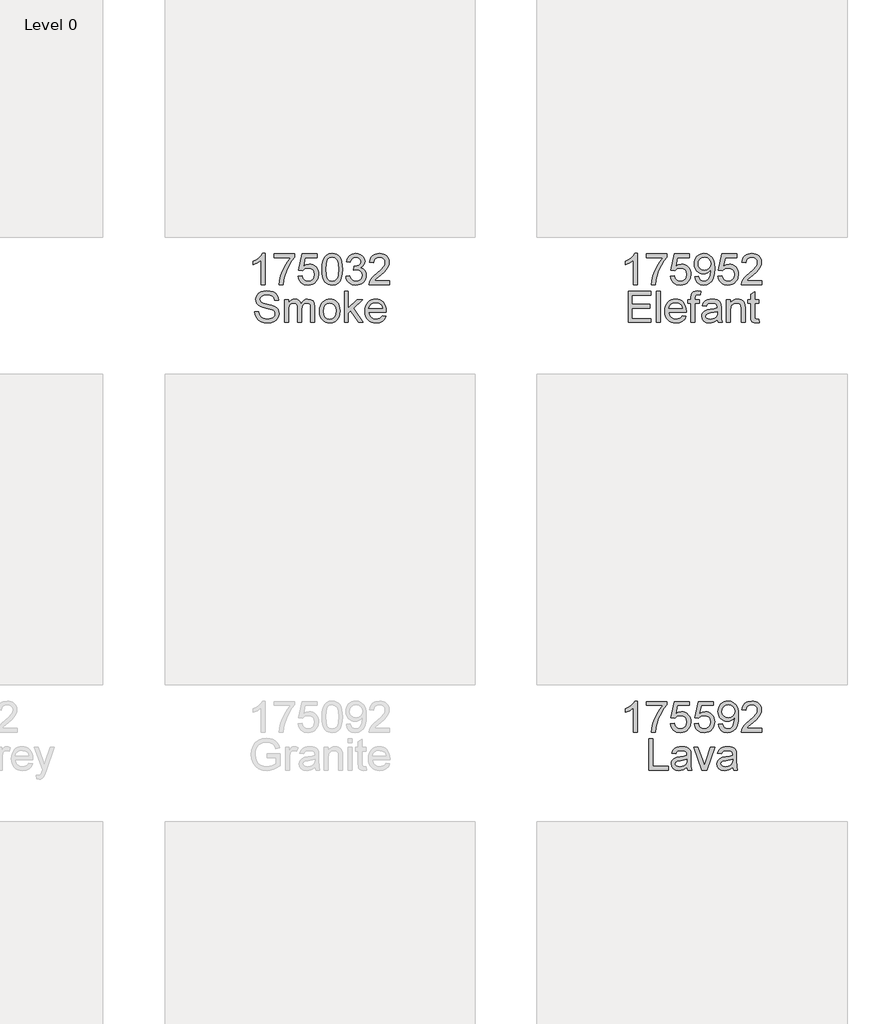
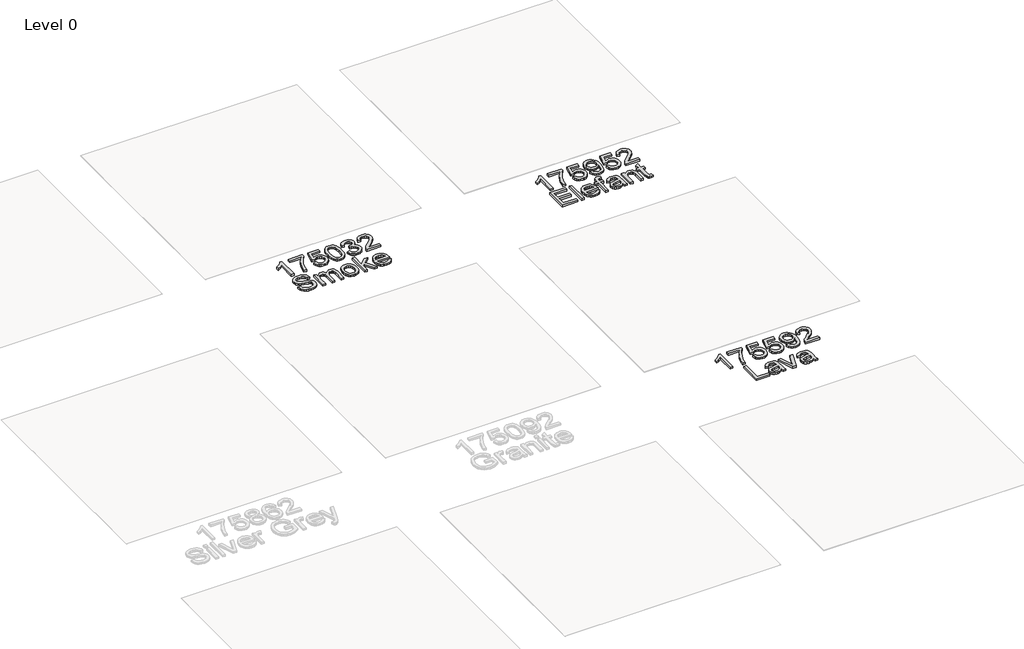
# One storey, part 4 of 5: 3 proxies.
"""IFC4 building model written with IfcOpenShell, lengths in millimetres."""

from ifc_helpers import new_model, si_unit, origin, origin_with_axes, place, context, project, spatial, polyline, outline, extrude, element, save

model = new_model("IFC4")

# Units and contexts
model_context = context("Model", 3, world=origin())
ifc_project = project(units=[si_unit("LENGTHUNIT", "METRE", prefix="MILLI")], contexts=[model_context])

# Site, building, storey
site = spatial("IfcSite", under=ifc_project)
building = spatial("IfcBuilding", under=site)
storey = spatial("IfcBuildingStorey", under=building, Name="Level 0", Elevation=0.0)

# Proxies
placement = place(None, origin())
element("IfcBuildingElementProxy", 1, Name="Floor Name", ObjectType="Floor Name", at=placement, inside=storey, context=model_context, shape_type="SweptSolid", body=[
    extrude(outline(polyline([(24290.377598, -2548.7362914), (24252.7064817, -2548.7362914), (24252.7064817, -2313.8804257), (24217.0219282, -2339.3010716), (24177.3642491, -2358.3205707), (24177.3642491, -2322.7095936), (24206.9511586, -2306.6147563), (24232.5833366, -2287.4664984), (24252.7892552, -2267.10423), (24266.0973864, -2247.367361), (24290.377598, -2247.367361), (24290.377598, -2548.7362914)])), origin_with_axes(), (0.0, 0.0, 1.0), 25.0),
    extrude(outline(polyline([(24379.8464993, -2289.7473668), (24379.8464993, -2252.0762505), (24577.6198599, -2252.0762505), (24577.6198599, -2282.5368797), (24549.430902, -2318.2122362), (24521.5178556, -2363.5812832), (24496.8973531, -2414.5053484), (24478.5860268, -2466.8457593), (24469.6097061, -2506.0067977), (24464.606511, -2548.7362914), (24426.9353947, -2548.7362914), (24431.0096878, -2509.9063468), (24441.9081919, -2463.7555505), (24459.3366014, -2414.8364422), (24483.0006107, -2367.7015616), (24510.6285486, -2325.0916295), (24539.9487436, -2289.7473668), (24379.8464993, -2289.7473668)])), origin_with_axes(), (0.0, 0.0, 1.0), 25.0),
    extrude(outline(polyline([(24610.5820866, -2468.6851693), (24648.253203, -2463.9762797), (24655.1693845, -2486.5918254), (24667.2359139, -2502.7878302), (24684.397609, -2512.527506), (24706.5992874, -2515.7740646), (24733.6018258, -2511.2583132), (24753.8353356, -2497.7110587), (24766.4720821, -2476.6957997), (24770.6843309, -2449.7760347), (24766.7387965, -2424.4289652), (24754.9021934, -2405.0415841), (24735.0825509, -2392.7359314), (24707.1878986, -2388.6340471), (24688.9133605, -2390.271122), (24674.1153072, -2395.1823466), (24652.9620925, -2412.1784948), (24615.2909762, -2407.4696053), (24648.253203, -2252.0762505), (24794.2287786, -2252.0762505), (24794.2287786, -2289.7473668), (24678.7138322, -2289.7473668), (24662.6006008, -2372.7415449), (24689.5111687, -2356.4075843), (24717.7093236, -2350.9629308), (24736.0551389, -2352.6505895), (24752.9064335, -2357.7135654), (24768.2632076, -2366.1518587), (24782.125461, -2377.9654693), (24793.60108, -2392.4324287), (24801.7979507, -2408.8307687), (24806.7160731, -2427.1604891), (24808.3554473, -2447.4215899), (24802.4509412, -2485.0927063), (24795.0703087, -2501.8865193), (24784.7374232, -2517.319169), (24769.0840443, -2533.1242992), (24750.8187032, -2544.413678), (24729.9414, -2551.1873052), (24706.4521346, -2553.445181), (24669.4524029, -2547.6418425), (24653.7737321, -2540.3876694), (24639.9758581, -2530.2318271), (24628.4956405, -2517.6801532), (24619.7699395, -2503.2384857), (24610.5820866, -2468.6851693)])), origin_with_axes(), (0.0, 0.0, 1.0), 25.0),
    extrude(outline(polyline([(24841.317674, -2400.4798474), (24844.085986, -2352.2413207), (24852.3909221, -2313.7700611), (24866.1497087, -2284.4774572), (24885.2795724, -2263.774898), (24909.9184691, -2251.4692452), (24940.2043543, -2247.367361), (24963.4177082, -2249.7953821), (24984.2030409, -2257.0794456), (25001.5854652, -2268.9344429), (25014.5900938, -2285.0752655), (25024.412543, -2305.3639575), (25032.2484295, -2329.6625633), (25037.3803834, -2360.5186656), (25039.0910346, -2400.4798474), (25036.3503138, -2448.4424625), (25028.1281512, -2486.8217516), (25014.452138, -2516.1419466), (24995.3498654, -2536.9272794), (24970.6557865, -2549.3157056), (24940.2043543, -2553.445181), (24919.4558098, -2551.6517562), (24901.06171, -2546.271482), (24885.022055, -2537.3043584), (24871.3368448, -2524.7503853), (24858.2034576, -2502.0566648), (24848.8224667, -2473.7803349), (24843.1938722, -2439.9213958), (24841.317674, -2400.4798474)]), holes=[polyline([(24878.9887903, -2400.406271), (24883.4033743, -2459.6628633), (24888.9216042, -2479.930862), (24896.6471261, -2493.9586623), (24916.365601, -2510.3202141), (24940.2043543, -2515.7740646), (24964.0431076, -2510.30182), (24983.7615826, -2493.8850859), (24991.4871045, -2479.834293), (24997.0053344, -2459.5708928), (25001.4199183, -2400.406271), (24997.1524872, -2342.4832508), (24991.8181982, -2322.2819308), (24984.3501937, -2307.9207374), (24964.668507, -2290.7590423), (24939.7628959, -2285.0384773), (24916.18166, -2290.0784606), (24897.2357373, -2305.1984106), (24889.252698, -2320.8333954), (24883.5505271, -2341.9130337), (24878.9887903, -2400.406271)])]), origin_with_axes(), (0.0, 0.0, 1.0), 25.0),
    extrude(outline(polyline([(25072.0532614, -2468.6851693), (25109.7243777, -2463.9762797), (25118.1580724, -2487.6494861), (25130.5097104, -2503.6339588), (25147.386297, -2512.7390382), (25169.3948373, -2515.7740646), (25195.2201534, -2511.598604), (25215.1593575, -2499.0722221), (25227.9064687, -2480.3838167), (25232.1555057, -2457.7222858), (25227.9432569, -2436.2103861), (25215.3065103, -2418.7635825), (25196.1766466, -2407.2028908), (25172.4850461, -2403.3493269), (25146.0711188, -2407.4696053), (25150.2649736, -2369.798489), (25156.2982383, -2370.2399474), (25178.8677987, -2367.5360147), (25199.0461261, -2359.4242167), (25213.2831593, -2345.7022183), (25218.0288371, -2326.1676843), (25214.5891404, -2309.8981031), (25204.2700505, -2296.7003365), (25188.5247011, -2287.9539421), (25168.8062261, -2285.0384773), (25149.050963, -2287.9815332), (25132.9009434, -2296.8107011), (25121.1103255, -2311.5259809), (25114.4332672, -2332.1273727), (25076.7621509, -2327.4184831), (25087.8537931, -2293.5917337), (25107.5906621, -2268.3366347), (25134.5932006, -2252.6096794), (25167.4818509, -2247.367361), (25191.1642544, -2249.951732), (25212.9152774, -2257.704845), (25231.2541948, -2269.9369214), (25244.7002817, -2285.9581823), (25252.9500355, -2304.4166614), (25255.6999534, -2323.9603924), (25253.0879912, -2342.1705511), (25245.2521047, -2358.6884527), (25232.3026585, -2372.759939), (25214.3500171, -2383.630852), (25237.931253, -2393.1589957), (25255.4056478, -2409.3825916), (25266.2213785, -2431.4187232), (25269.826622, -2458.3844734), (25268.0240002, -2477.4959431), (25262.6161349, -2495.0990965), (25253.603026, -2511.1939338), (25240.9846736, -2525.7804549), (25225.6118047, -2537.8837726), (25208.3351465, -2546.5289994), (25189.154699, -2551.7161356), (25168.0704621, -2553.445181), (25149.0141748, -2551.9690544), (25131.6501446, -2547.5406749), (25115.9783716, -2540.1600424), (25101.9988558, -2529.8271569), (25090.2772157, -2517.1490236), (25081.37907, -2502.7326479), (25075.3044185, -2486.5780298), (25072.0532614, -2468.6851693)])), origin_with_axes(), (0.0, 0.0, 1.0), 25.0),
    extrude(outline(polyline([(25495.8533198, -2511.0651751), (25495.8533198, -2548.7362914), (25298.0799592, -2548.7362914), (25302.1266612, -2522.7638226), (25311.4156816, -2502.4659335), (25325.0089213, -2482.7750497), (25344.6722139, -2462.1644609), (25372.1713931, -2439.1074569), (25412.8223535, -2402.999839), (25437.2129298, -2376.3467885), (25449.4082179, -2354.7153272), (25453.473314, -2333.672477), (25449.6381442, -2314.8093277), (25438.1326348, -2299.1283577), (25420.4467079, -2288.5609474), (25398.0702855, -2285.0384773), (25374.5718231, -2288.4781739), (25356.3156791, -2298.7972639), (25344.5342582, -2315.1864068), (25340.4599651, -2336.8362622), (25302.7888488, -2332.1273727), (25311.9215193, -2295.688661), (25320.4678779, -2281.1527237), (25331.6675854, -2269.0723987), (25345.2631244, -2259.5764447), (25360.9969775, -2252.7936204), (25398.8796259, -2247.367361), (25419.0694497, -2248.8756771), (25437.0381859, -2253.4006257), (25452.7858345, -2260.9422066), (25466.3123956, -2271.5004199), (25477.1764108, -2284.2935162), (25484.9364216, -2298.5397465), (25489.5924281, -2314.2391106), (25491.1444303, -2331.3916087), (25489.4705672, -2349.4086294), (25484.448978, -2367.1129504), (25475.5370367, -2385.1207741), (25462.1921173, -2404.0483027), (25440.9193409, -2426.6454543), (25408.2238286, -2455.6621466), (25364.8873296, -2491.8985232), (25347.8911814, -2511.0651751), (25495.8533198, -2511.0651751)])), origin_with_axes(), (0.0, 0.0, 1.0), 25.0),
    extrude(outline(polyline([(24191.4909177, -2811.0651751), (24229.162034, -2811.0651751), (24233.4846475, -2831.9700695), (24241.3021399, -2848.7730796), (24253.497428, -2862.1088019), (24270.9534287, -2872.6118329), (24292.2905844, -2879.4268469), (24316.1293377, -2881.6985182), (24337.1170055, -2879.9786699), (24355.4927112, -2874.8191249), (24370.3827349, -2866.6521446), (24380.9133571, -2855.9099903), (24387.176548, -2843.5767464), (24389.2642783, -2830.6364973), (24387.7007799, -2818.0273419), (24383.0102844, -2807.1288378), (24373.4821408, -2797.8306203), (24357.4056976, -2790.022325), (24302.5544921, -2775.638139), (24266.5480418, -2766.1191923), (24243.5094319, -2757.0600982), (24224.7566472, -2744.3865635), (24211.4669101, -2729.0274902), (24203.5482501, -2711.3139721), (24200.9086968, -2691.5771031), (24204.1736495, -2669.5133804), (24213.9685076, -2648.9395798), (24230.0357538, -2631.5019733), (24252.1178705, -2618.8468326), (24278.6237683, -2611.1489019), (24307.9623574, -2608.582925), (24339.7473618, -2611.2684635), (24367.5592406, -2619.3250792), (24390.4047125, -2632.5872252), (24407.2904961, -2650.8893544), (24417.9774681, -2673.0910328), (24422.2265051, -2698.0518262), (24384.5553888, -2698.0518262), (24377.6392073, -2675.5742363), (24363.2182331, -2659.3506403), (24340.6854609, -2649.528191), (24309.4338854, -2646.2540413), (24277.4465459, -2649.4914028), (24255.5023849, -2659.2034875), (24242.8104561, -2673.495703), (24238.5798131, -2690.4734571), (24241.5780514, -2704.9496136), (24250.5727662, -2716.5930787), (24271.8363455, -2727.0041392), (24312.0826358, -2737.6359289), (24353.616513, -2747.7342896), (24378.7428533, -2756.5450634), (24400.2179648, -2770.2118795), (24415.199959, -2787.079269), (24424.0015357, -2806.9632909), (24426.9353947, -2829.6800041), (24423.5600773, -2852.902555), (24413.4341254, -2874.7455485), (24396.9714061, -2893.5443184), (24374.5857867, -2907.6341988), (24347.6660217, -2916.4357756), (24317.6008657, -2919.3696345), (24280.6931045, -2916.2058493), (24250.3152488, -2906.7144939), (24226.1178105, -2890.8587799), (24207.7513019, -2868.6019192), (24195.960684, -2841.4890161), (24191.4909177, -2811.0651751)])), origin_with_axes(), (0.0, 0.0, 1.0), 25.0),
    extrude(outline(polyline([(24478.7331796, -2914.660745), (24478.7331796, -2693.3429367), (24516.4042959, -2693.3429367), (24516.4042959, -2729.7632542), (24527.7350613, -2713.0338204), (24542.3031883, -2699.9280244), (24559.6120362, -2691.4575414), (24579.1649643, -2688.6340471), (24600.1158439, -2691.5127237), (24616.909657, -2700.1487536), (24629.454433, -2713.9719195), (24637.6582015, -2732.4120045), (24651.389397, -2713.2591482), (24667.0519729, -2699.5785365), (24684.6459293, -2691.3701695), (24704.1712662, -2688.6340471), (24732.4889828, -2693.1865868), (24753.4306654, -2706.8442059), (24766.3709146, -2729.9747863), (24770.6843309, -2762.9462101), (24770.6843309, -2914.660745), (24733.0132146, -2914.660745), (24733.0132146, -2779.1330179), (24729.5183357, -2747.6791073), (24724.6071111, -2739.0062893), (24716.8631951, -2732.1912753), (24706.90279, -2727.7766914), (24695.3420983, -2726.3051634), (24674.9338447, -2730.0759539), (24658.2963814, -2741.3883252), (24647.2323304, -2761.0148297), (24643.5443134, -2789.7280194), (24643.5443134, -2914.660745), (24605.8731971, -2914.660745), (24605.8731971, -2774.9391632), (24603.6934963, -2753.6387957), (24597.1543938, -2738.4452693), (24585.6488844, -2729.3401899), (24568.5699628, -2726.3051634), (24554.0570181, -2728.3285144), (24540.6845076, -2734.3985673), (24529.6480477, -2744.3681694), (24522.143255, -2758.0901678), (24517.8390357, -2777.1280611), (24516.4042959, -2803.0453476), (24516.4042959, -2914.660745), (24478.7331796, -2914.660745)])), origin_with_axes(), (0.0, 0.0, 1.0), 25.0),
    extrude(outline(polyline([(24817.7732263, -2804.0018408), (24819.8103729, -2775.3392349), (24825.9218125, -2750.6405574), (24836.1075453, -2729.9058084), (24850.3675711, -2713.134988), (24864.724166, -2702.4158264), (24880.5706829, -2694.7592823), (24897.9071219, -2690.1653559), (24916.733483, -2688.6340471), (24937.5165165, -2690.498749), (24956.3083887, -2696.0928546), (24973.1090995, -2705.4163639), (24987.9186491, -2718.4692769), (25000.0058719, -2734.8101353), (25008.6396025, -2753.9974806), (25013.8198408, -2776.0313129), (25015.5465869, -2800.911632), (25012.4931664, -2838.9690244), (25003.3329047, -2867.9397316), (24988.3325163, -2889.6355722), (24967.7587158, -2905.8683653), (24943.3221542, -2915.9943172), (24916.733483, -2919.3696345), (24895.6469469, -2917.5118304), (24876.6803308, -2911.9384182), (24859.8336347, -2902.6493978), (24845.1068586, -2889.6447693), (24833.1483945, -2873.1452618), (24824.6066344, -2853.3716046), (24819.4815783, -2830.3237976), (24817.7732263, -2804.0018408)]), holes=[polyline([(24855.4443426, -2803.9282644), (24859.8037443, -2838.0217283), (24872.8819492, -2862.311137), (24892.563636, -2876.8516729), (24916.733483, -2881.6985182), (24940.7929655, -2876.8240817), (24960.4378641, -2862.2007724), (24973.516069, -2837.589467), (24977.8754706, -2802.751042), (24973.4884778, -2769.6508595), (24960.3274995, -2745.6925446), (24940.6550098, -2731.1520087), (24916.733483, -2726.3051634), (24892.563636, -2731.1336146), (24872.8819492, -2745.6189682), (24859.8037443, -2769.8531946), (24855.4443426, -2803.9282644)])]), origin_with_axes(), (0.0, 0.0, 1.0), 25.0),
    extrude(outline(polyline([(25057.9265928, -2914.660745), (25057.9265928, -2613.2918145), (25095.5977091, -2613.2918145), (25095.5977091, -2775.2334688), (25180.0634152, -2693.3429367), (25232.1555057, -2693.3429367), (25146.65973, -2776.2635384), (25236.8643952, -2914.660745), (25192.8657086, -2914.660745), (25119.6571916, -2802.4567364), (25095.5977091, -2825.7804549), (25095.5977091, -2914.660745), (25057.9265928, -2914.660745)])), origin_with_axes(), (0.0, 0.0, 1.0), 25.0),
    extrude(outline(polyline([(25424.7785184, -2848.7362914), (25461.7138707, -2853.445181), (25448.4057395, -2881.2754539), (25427.1697513, -2902.0791807), (25398.4841528, -2915.047021), (25362.8271904, -2919.3696345), (25339.4528881, -2917.5049326), (25318.6261687, -2911.910827), (25300.347032, -2902.5873177), (25284.6154782, -2889.5344047), (25271.9649361, -2873.1153714), (25262.9288346, -2853.6935013), (25257.5071737, -2831.2687944), (25255.6999534, -2805.8412508), (25257.5255678, -2779.5514837), (25263.002411, -2756.3795165), (25272.130483, -2736.3253493), (25284.9097838, -2719.3889819), (25300.5999509, -2705.9336979), (25318.4606218, -2696.3227808), (25338.4917964, -2690.5562305), (25360.6934748, -2688.6340471), (25382.1800826, -2690.551632), (25401.6111497, -2696.3043867), (25418.9866762, -2705.8923112), (25434.306662, -2719.3154055), (25446.8123506, -2736.2149847), (25455.7449853, -2756.2323637), (25461.1045661, -2779.3675427), (25462.8910931, -2805.6205216), (25462.6703639, -2815.7740646), (25293.3710697, -2815.7740646), (25299.8917781, -2843.9722196), (25315.0393192, -2864.70237), (25336.9007068, -2877.4494811), (25363.5629544, -2881.6985182), (25383.6125231, -2879.7303495), (25400.4983067, -2873.8258435), (25414.2203051, -2863.6171181), (25424.7785184, -2848.7362914)]), holes=[polyline([(25293.3710697, -2778.1029483), (25425.2199768, -2778.1029483), (25420.1248111, -2758.2005324), (25410.136815, -2743.9634992), (25388.1742599, -2730.7197474), (25360.546322, -2726.3051634), (25335.1532673, -2729.8276335), (25314.1564024, -2740.3950438), (25299.5606843, -2756.8669602), (25293.3710697, -2778.1029483)])]), origin_with_axes(), (0.0, 0.0, 1.0), 25.0),
])
element("IfcBuildingElementProxy", 2, Name="Floor Name", ObjectType="Floor Name", at=placement, inside=storey, context=model_context, shape_type="SweptSolid", body=[
    extrude(outline(polyline([(27890.377598, -2548.7362914), (27852.7064817, -2548.7362914), (27852.7064817, -2313.8804257), (27817.0219282, -2339.3010716), (27777.3642491, -2358.3205707), (27777.3642491, -2322.7095936), (27806.9511586, -2306.6147563), (27832.5833366, -2287.4664984), (27852.7892552, -2267.10423), (27866.0973864, -2247.367361), (27890.377598, -2247.367361), (27890.377598, -2548.7362914)])), origin_with_axes(), (0.0, 0.0, 1.0), 25.0),
    extrude(outline(polyline([(27979.8464993, -2289.7473668), (27979.8464993, -2252.0762505), (28177.6198599, -2252.0762505), (28177.6198599, -2282.5368797), (28149.430902, -2318.2122362), (28121.5178556, -2363.5812832), (28096.8973531, -2414.5053484), (28078.5860268, -2466.8457593), (28069.6097061, -2506.0067977), (28064.606511, -2548.7362914), (28026.9353947, -2548.7362914), (28031.0096878, -2509.9063468), (28041.9081919, -2463.7555505), (28059.3366014, -2414.8364422), (28083.0006107, -2367.7015616), (28110.6285486, -2325.0916295), (28139.9487436, -2289.7473668), (27979.8464993, -2289.7473668)])), origin_with_axes(), (0.0, 0.0, 1.0), 25.0),
    extrude(outline(polyline([(28210.5820866, -2468.6851693), (28248.253203, -2463.9762797), (28255.1693845, -2486.5918254), (28267.2359139, -2502.7878302), (28284.397609, -2512.527506), (28306.5992874, -2515.7740646), (28333.6018258, -2511.2583132), (28353.8353356, -2497.7110587), (28366.4720821, -2476.6957997), (28370.6843309, -2449.7760347), (28366.7387965, -2424.4289652), (28354.9021934, -2405.0415841), (28335.0825509, -2392.7359314), (28307.1878986, -2388.6340471), (28288.9133605, -2390.271122), (28274.1153072, -2395.1823466), (28252.9620925, -2412.1784948), (28215.2909762, -2407.4696053), (28248.253203, -2252.0762505), (28394.2287786, -2252.0762505), (28394.2287786, -2289.7473668), (28278.7138322, -2289.7473668), (28262.6006008, -2372.7415449), (28289.5111687, -2356.4075843), (28317.7093236, -2350.9629308), (28336.0551389, -2352.6505895), (28352.9064335, -2357.7135654), (28368.2632076, -2366.1518587), (28382.125461, -2377.9654693), (28393.60108, -2392.4324287), (28401.7979507, -2408.8307687), (28406.7160731, -2427.1604891), (28408.3554473, -2447.4215899), (28402.4509412, -2485.0927063), (28395.0703087, -2501.8865193), (28384.7374232, -2517.319169), (28369.0840443, -2533.1242992), (28350.8187032, -2544.413678), (28329.9414, -2551.1873052), (28306.4521346, -2553.445181), (28269.4524029, -2547.6418425), (28253.7737321, -2540.3876694), (28239.9758581, -2530.2318271), (28228.4956405, -2517.6801532), (28219.7699395, -2503.2384857), (28210.5820866, -2468.6851693)])), origin_with_axes(), (0.0, 0.0, 1.0), 25.0),
    extrude(outline(polyline([(28446.0265636, -2473.3940588), (28483.6976799, -2468.6851693), (28490.1356148, -2490.0683102), (28500.6202516, -2504.6272402), (28514.8940731, -2512.9873585), (28532.6995616, -2515.7740646), (28548.6748373, -2513.9806399), (28563.196979, -2508.6003657), (28575.2635085, -2500.2218533), (28583.8719472, -2489.4337138), (28596.195994, -2456.6922162), (28601.6406475, -2412.9878352), (28601.4199183, -2405.6301953), (28588.3693045, -2421.5594857), (28571.2903829, -2434.1778381), (28551.4155581, -2442.4000007), (28529.9772349, -2445.1407216), (28512.0820751, -2443.4668585), (28495.6262536, -2438.4452693), (28480.6097704, -2430.0759539), (28467.0326255, -2418.3589123), (28455.7823342, -2403.9057484), (28447.7464119, -2387.328066), (28442.9248585, -2368.6258651), (28441.317674, -2347.7991457), (28443.0030334, -2326.2780489), (28448.0591116, -2306.9642442), (28456.4859085, -2289.8577314), (28468.2834243, -2274.9585106), (28482.6193258, -2262.8873826), (28498.66128, -2254.2651484), (28516.409287, -2249.0918078), (28535.8633468, -2247.367361), (28563.9603342, -2251.3036983), (28589.5373299, -2263.1127104), (28610.9296679, -2282.2057859), (28626.4726822, -2307.9943138), (28635.9364465, -2343.6420791), (28639.0910346, -2392.3128671), (28635.9456436, -2443.9175139), (28626.5094704, -2483.8051193), (28610.8652885, -2513.7783048), (28589.0958715, -2535.6396924), (28562.1393183, -2548.9938088), (28530.933728, -2553.445181), (28498.7256594, -2548.1936655), (28473.029102, -2532.439119), (28455.0580665, -2507.174823), (28446.0265636, -2473.3940588)]), holes=[polyline([(28601.4199183, -2346.9162289), (28597.3548223, -2321.3852184), (28585.1595341, -2301.7403199), (28566.2320055, -2289.2139379), (28541.9701879, -2285.0384773), (28516.8070594, -2289.5358347), (28496.6471261, -2303.0279068), (28483.4033743, -2323.6752838), (28478.9887903, -2349.6385556), (28483.164251, -2372.9162889), (28495.6906329, -2391.3931621), (28515.3539256, -2403.4504945), (28540.9401183, -2407.4696053), (28565.0087979, -2403.4504945), (28584.3869819, -2391.3931621), (28597.1616842, -2372.2357072), (28601.4199183, -2346.9162289)])]), origin_with_axes(), (0.0, 0.0, 1.0), 25.0),
    extrude(outline(polyline([(28672.0532614, -2468.6851693), (28709.7243777, -2463.9762797), (28716.6405592, -2486.5918254), (28728.7070887, -2502.7878302), (28745.8687837, -2512.527506), (28768.0704621, -2515.7740646), (28795.0730006, -2511.2583132), (28815.3065103, -2497.7110587), (28827.9432569, -2476.6957997), (28832.1555057, -2449.7760347), (28828.2099713, -2424.4289652), (28816.3733681, -2405.0415841), (28796.5537256, -2392.7359314), (28768.6590733, -2388.6340471), (28750.3845352, -2390.271122), (28735.586482, -2395.1823466), (28714.4332672, -2412.1784948), (28676.7621509, -2407.4696053), (28709.7243777, -2252.0762505), (28855.6999534, -2252.0762505), (28855.6999534, -2289.7473668), (28740.1850069, -2289.7473668), (28724.0717755, -2372.7415449), (28750.9823435, -2356.4075843), (28779.1804984, -2350.9629308), (28797.5263136, -2352.6505895), (28814.3776083, -2357.7135654), (28829.7343823, -2366.1518587), (28843.5966357, -2377.9654693), (28855.0722547, -2392.4324287), (28863.2691254, -2408.8307687), (28868.1872479, -2427.1604891), (28869.826622, -2447.4215899), (28863.922116, -2485.0927063), (28856.5414835, -2501.8865193), (28846.2085979, -2517.319169), (28830.555219, -2533.1242992), (28812.289878, -2544.413678), (28791.4125747, -2551.1873052), (28767.9233093, -2553.445181), (28730.9235777, -2547.6418425), (28715.2449069, -2540.3876694), (28701.4470328, -2530.2318271), (28689.9668153, -2517.6801532), (28681.2411142, -2503.2384857), (28672.0532614, -2468.6851693)])), origin_with_axes(), (0.0, 0.0, 1.0), 25.0),
    extrude(outline(polyline([(29095.8533198, -2511.0651751), (29095.8533198, -2548.7362914), (28898.0799592, -2548.7362914), (28902.1266612, -2522.7638226), (28911.4156816, -2502.4659335), (28925.0089213, -2482.7750497), (28944.6722139, -2462.1644609), (28972.1713931, -2439.1074569), (29012.8223535, -2402.999839), (29037.2129298, -2376.3467885), (29049.4082179, -2354.7153272), (29053.473314, -2333.672477), (29049.6381442, -2314.8093277), (29038.1326348, -2299.1283577), (29020.4467079, -2288.5609474), (28998.0702855, -2285.0384773), (28974.5718231, -2288.4781739), (28956.3156791, -2298.7972639), (28944.5342582, -2315.1864068), (28940.4599651, -2336.8362622), (28902.7888488, -2332.1273727), (28911.9215193, -2295.688661), (28920.4678779, -2281.1527237), (28931.6675854, -2269.0723987), (28945.2631244, -2259.5764447), (28960.9969775, -2252.7936204), (28998.8796259, -2247.367361), (29019.0694497, -2248.8756771), (29037.0381859, -2253.4006257), (29052.7858345, -2260.9422066), (29066.3123956, -2271.5004199), (29077.1764108, -2284.2935162), (29084.9364216, -2298.5397465), (29089.5924281, -2314.2391106), (29091.1444303, -2331.3916087), (29089.4705672, -2349.4086294), (29084.448978, -2367.1129504), (29075.5370367, -2385.1207741), (29062.1921173, -2404.0483027), (29040.9193409, -2426.6454543), (29008.2238286, -2455.6621466), (28964.8873296, -2491.8985232), (28947.8911814, -2511.0651751), (29095.8533198, -2511.0651751)])), origin_with_axes(), (0.0, 0.0, 1.0), 25.0),
    extrude(outline(polyline([(27803.2631416, -2914.660745), (27803.2631416, -2613.2918145), (28019.8720603, -2613.2918145), (28019.8720603, -2650.9629308), (27840.9342579, -2650.9629308), (27840.9342579, -2740.431832), (28010.4542813, -2740.431832), (28010.4542813, -2778.1029483), (27840.9342579, -2778.1029483), (27840.9342579, -2876.9896286), (28024.5809499, -2876.9896286), (28024.5809499, -2914.660745), (27803.2631416, -2914.660745)])), origin_with_axes(), (0.0, 0.0, 1.0), 25.0),
    extrude(outline(polyline([(28076.3787348, -2914.660745), (28076.3787348, -2613.2918145), (28114.0498511, -2613.2918145), (28114.0498511, -2914.660745), (28076.3787348, -2914.660745)])), origin_with_axes(), (0.0, 0.0, 1.0), 25.0),
    extrude(outline(polyline([(28325.5084219, -2848.7362914), (28362.4437743, -2853.445181), (28349.1356431, -2881.2754539), (28327.8996549, -2902.0791807), (28299.2140563, -2915.047021), (28263.557094, -2919.3696345), (28240.1827917, -2917.5049326), (28219.3560722, -2911.910827), (28201.0769356, -2902.5873177), (28185.3453818, -2889.5344047), (28172.6948397, -2873.1153714), (28163.6587382, -2853.6935013), (28158.2370773, -2831.2687944), (28156.429857, -2805.8412508), (28158.2554714, -2779.5514837), (28163.7323146, -2756.3795165), (28172.8603866, -2736.3253493), (28185.6396874, -2719.3889819), (28201.3298545, -2705.9336979), (28219.1905253, -2696.3227808), (28239.2217, -2690.5562305), (28261.4233784, -2688.6340471), (28282.9099862, -2690.551632), (28302.3410533, -2696.3043867), (28319.7165798, -2705.8923112), (28335.0365656, -2719.3154055), (28347.5422542, -2736.2149847), (28356.4748889, -2756.2323637), (28361.8344697, -2779.3675427), (28363.6209966, -2805.6205216), (28363.4002674, -2815.7740646), (28194.1009733, -2815.7740646), (28200.6216816, -2843.9722196), (28215.7692228, -2864.70237), (28237.6306103, -2877.4494811), (28264.2928579, -2881.6985182), (28284.3424267, -2879.7303495), (28301.2282103, -2873.8258435), (28314.9502087, -2863.6171181), (28325.5084219, -2848.7362914)]), holes=[polyline([(28194.1009733, -2778.1029483), (28325.9498803, -2778.1029483), (28320.8547147, -2758.2005324), (28310.8667185, -2743.9634992), (28288.9041634, -2730.7197474), (28261.2762256, -2726.3051634), (28235.8831709, -2729.8276335), (28214.886306, -2740.3950438), (28200.2905878, -2756.8669602), (28194.1009733, -2778.1029483)])]), origin_with_axes(), (0.0, 0.0, 1.0), 25.0),
    extrude(outline(polyline([(28410.709892, -2914.660745), (28410.709892, -2731.014053), (28377.7476653, -2731.014053), (28377.7476653, -2693.3429367), (28410.709892, -2693.3429367), (28410.709892, -2671.0492877), (28414.6830176, -2639.6321654), (28422.2613867, -2627.1057834), (28433.9600341, -2617.1913637), (28450.3307829, -2610.7350346), (28471.925456, -2608.582925), (28506.2856344, -2612.7032033), (28500.7674044, -2648.0198748), (28479.0623667, -2646.2540413), (28464.7425601, -2647.8175398), (28455.333978, -2652.5080352), (28450.1192508, -2661.4659618), (28448.3810083, -2675.8317537), (28448.3810083, -2693.3429367), (28490.7610142, -2693.3429367), (28490.7610142, -2731.014053), (28448.3810083, -2731.014053), (28448.3810083, -2914.660745), (28410.709892, -2914.660745)])), origin_with_axes(), (0.0, 0.0, 1.0), 25.0),
    extrude(outline(polyline([(28664.9899271, -2886.4074077), (28646.9913005, -2901.8400574), (28628.459245, -2911.9384182), (28608.9706963, -2917.5118304), (28588.1025901, -2919.3696345), (28556.6210884, -2914.8998682), (28533.3985374, -2901.4905695), (28519.0787308, -2881.1283011), (28514.3054619, -2855.7996257), (28516.1080836, -2840.183035), (28521.515949, -2826.0011841), (28529.8576732, -2813.8610783), (28540.4618717, -2804.3697228), (28566.8390108, -2792.0088878), (28599.4333555, -2786.343505), (28637.9506004, -2780.3838167), (28664.7691979, -2773.3940588), (28664.9899271, -2765.0063493), (28662.396359, -2748.1941421), (28654.6156548, -2737.1944705), (28637.2148365, -2729.0274902), (28612.971413, -2726.3051634), (28590.5306113, -2728.1169822), (28574.8588383, -2733.5524387), (28564.1718663, -2743.6048142), (28556.6854677, -2759.2673902), (28519.0143514, -2754.5585007), (28525.5534539, -2733.9571089), (28535.3115238, -2717.7703011), (28549.1990691, -2705.391072), (28568.1265978, -2696.2124162), (28591.2755723, -2690.5286394), (28617.8274553, -2688.6340471), (28643.2940864, -2690.3079102), (28663.4816109, -2695.3294994), (28678.7027285, -2702.8802774), (28689.2701388, -2712.1417066), (28696.2782908, -2723.5920337), (28700.8216334, -2737.7095053), (28702.6610434, -2770.671732), (28702.6610434, -2817.5398982), (28704.5740298, -2882.9861052), (28712.0788225, -2914.660745), (28674.4077062, -2914.660745), (28664.9899271, -2886.4074077)]), holes=[polyline([(28664.9899271, -2811.0651751), (28604.2158215, -2822.6166698), (28571.8054177, -2828.7235109), (28557.1269261, -2838.6563247), (28551.9765782, -2853.1508754), (28554.7816784, -2864.3528821), (28563.196979, -2873.5315379), (28577.0385391, -2879.6567731), (28596.1224176, -2881.6985182), (28616.3559273, -2879.445241), (28634.2349923, -2872.6854093), (28648.7295429, -2862.7250043), (28658.8095096, -2850.870007), (28663.2792758, -2838.6563247), (28664.7691979, -2821.733753), (28664.9899271, -2811.0651751)])]), origin_with_axes(), (0.0, 0.0, 1.0), 25.0),
    extrude(outline(polyline([(28754.4588283, -2914.660745), (28754.4588283, -2693.3429367), (28792.1299446, -2693.3429367), (28792.1299446, -2724.2450242), (28805.2173466, -2708.6652218), (28820.9351048, -2697.5367914), (28839.2832194, -2690.8597332), (28860.2616901, -2688.6340471), (28878.8305338, -2690.4274718), (28895.8358791, -2695.807746), (28910.01773, -2704.103485), (28920.1160907, -2714.6433042), (28931.410068, -2742.3448184), (28933.3966308, -2778.7651359), (28933.3966308, -2914.660745), (28895.7255145, -2914.660745), (28895.7255145, -2783.8419075), (28891.3845069, -2750.5117987), (28885.3788334, -2740.5881819), (28876.0438277, -2732.8902511), (28864.0784658, -2727.9514354), (28850.1817235, -2726.3051634), (28828.1180008, -2730.0023775), (28809.3100338, -2741.0940196), (28801.7937448, -2750.1485152), (28796.4249669, -2762.5231458), (28792.1299446, -2797.2328121), (28792.1299446, -2914.660745), (28754.4588283, -2914.660745)])), origin_with_axes(), (0.0, 0.0, 1.0), 25.0),
    extrude(outline(polyline([(29065.2455378, -2883.2436226), (29069.9544274, -2915.7643909), (29041.7746665, -2919.3696345), (29023.6932665, -2917.806136), (29010.2103914, -2913.1156406), (29000.6822477, -2905.8867594), (28994.465042, -2896.7081036), (28991.0437394, -2880.9443601), (28989.9033052, -2853.9602157), (28989.9033052, -2731.014053), (28961.649968, -2731.014053), (28961.649968, -2693.3429367), (28989.9033052, -2693.3429367), (28989.9033052, -2639.558589), (29027.5744215, -2617.4120928), (29027.5744215, -2693.3429367), (29065.2455378, -2693.3429367), (29065.2455378, -2731.014053), (29027.5744215, -2731.014053), (29027.5744215, -2852.8565698), (29029.5609843, -2872.2807391), (29035.9989192, -2879.1601324), (29048.8380009, -2881.6985182), (29065.2455378, -2883.2436226)])), origin_with_axes(), (0.0, 0.0, 1.0), 25.0),
])
element("IfcBuildingElementProxy", 3, Name="Floor Name", ObjectType="Floor Name", at=placement, inside=storey, context=model_context, shape_type="SweptSolid", body=[
    extrude(outline(polyline([(27890.377598, -6874.660745), (27852.7064817, -6874.660745), (27852.7064817, -6639.8048792), (27817.0219282, -6665.2255251), (27777.3642491, -6684.2450242), (27777.3642491, -6648.6340471), (27806.9511586, -6632.5392098), (27832.5833366, -6613.390952), (27852.7892552, -6593.0286835), (27866.0973864, -6573.2918145), (27890.377598, -6573.2918145), (27890.377598, -6874.660745)])), origin_with_axes(), (0.0, 0.0, 1.0), 25.0),
    extrude(outline(polyline([(27979.8464993, -6615.6718203), (27979.8464993, -6578.000704), (28177.6198599, -6578.000704), (28177.6198599, -6608.4613332), (28149.430902, -6644.1366897), (28121.5178556, -6689.5057368), (28096.8973531, -6740.429802), (28078.5860268, -6792.7702128), (28069.6097061, -6831.9312512), (28064.606511, -6874.660745), (28026.9353947, -6874.660745), (28031.0096878, -6835.8308004), (28041.9081919, -6789.6800041), (28059.3366014, -6740.7608958), (28083.0006107, -6693.6260151), (28110.6285486, -6651.016083), (28139.9487436, -6615.6718203), (27979.8464993, -6615.6718203)])), origin_with_axes(), (0.0, 0.0, 1.0), 25.0),
    extrude(outline(polyline([(28210.5820866, -6794.6096228), (28248.253203, -6789.9007333), (28255.1693845, -6812.5162789), (28267.2359139, -6828.7122838), (28284.397609, -6838.4519596), (28306.5992874, -6841.6985182), (28333.6018258, -6837.1827667), (28353.8353356, -6823.6355122), (28366.4720821, -6802.6202532), (28370.6843309, -6775.7004882), (28366.7387965, -6750.3534188), (28354.9021934, -6730.9660376), (28335.0825509, -6718.6603849), (28307.1878986, -6714.5585007), (28288.9133605, -6716.1955755), (28274.1153072, -6721.1068002), (28252.9620925, -6738.1029483), (28215.2909762, -6733.3940588), (28248.253203, -6578.000704), (28394.2287786, -6578.000704), (28394.2287786, -6615.6718203), (28278.7138322, -6615.6718203), (28262.6006008, -6698.6659985), (28289.5111687, -6682.3320379), (28317.7093236, -6676.8873843), (28336.0551389, -6678.575043), (28352.9064335, -6683.638019), (28368.2632076, -6692.0763122), (28382.125461, -6703.8899228), (28393.60108, -6718.3568823), (28401.7979507, -6734.7552222), (28406.7160731, -6753.0849426), (28408.3554473, -6773.3460435), (28402.4509412, -6811.0171598), (28395.0703087, -6827.8109729), (28384.7374232, -6843.2436226), (28369.0840443, -6859.0487528), (28350.8187032, -6870.3381315), (28329.9414, -6877.1117587), (28306.4521346, -6879.3696345), (28269.4524029, -6873.566296), (28253.7737321, -6866.3121229), (28239.9758581, -6856.1562806), (28228.4956405, -6843.6046068), (28219.7699395, -6829.1629392), (28210.5820866, -6794.6096228)])), origin_with_axes(), (0.0, 0.0, 1.0), 25.0),
    extrude(outline(polyline([(28441.317674, -6794.6096228), (28478.9887903, -6789.9007333), (28485.9049718, -6812.5162789), (28497.9715013, -6828.7122838), (28515.1331964, -6838.4519596), (28537.3348748, -6841.6985182), (28564.3374132, -6837.1827667), (28584.5709229, -6823.6355122), (28597.2076695, -6802.6202532), (28601.4199183, -6775.7004882), (28597.4743839, -6750.3534188), (28585.6377807, -6730.9660376), (28565.8181382, -6718.6603849), (28537.923486, -6714.5585007), (28519.6489478, -6716.1955755), (28504.8508946, -6721.1068002), (28483.6976799, -6738.1029483), (28446.0265636, -6733.3940588), (28478.9887903, -6578.000704), (28624.964366, -6578.000704), (28624.964366, -6615.6718203), (28509.4494195, -6615.6718203), (28493.3361881, -6698.6659985), (28520.2467561, -6682.3320379), (28548.444911, -6676.8873843), (28566.7907263, -6678.575043), (28583.6420209, -6683.638019), (28598.9987949, -6692.0763122), (28612.8610484, -6703.8899228), (28624.3366674, -6718.3568823), (28632.5335381, -6734.7552222), (28637.4516605, -6753.0849426), (28639.0910346, -6773.3460435), (28633.1865286, -6811.0171598), (28625.8058961, -6827.8109729), (28615.4730105, -6843.2436226), (28599.8196316, -6859.0487528), (28581.5542906, -6870.3381315), (28560.6769874, -6877.1117587), (28537.187722, -6879.3696345), (28500.1879903, -6873.566296), (28484.5093195, -6866.3121229), (28470.7114454, -6856.1562806), (28459.2312279, -6843.6046068), (28450.5055269, -6829.1629392), (28441.317674, -6794.6096228)])), origin_with_axes(), (0.0, 0.0, 1.0), 25.0),
    extrude(outline(polyline([(28676.7621509, -6799.3185123), (28714.4332672, -6794.6096228), (28720.8712022, -6815.9927638), (28731.355839, -6830.5516937), (28745.6296604, -6838.9118121), (28763.435149, -6841.6985182), (28779.4104246, -6839.9050935), (28793.9325664, -6834.5248193), (28805.9990958, -6826.1463068), (28814.6075345, -6815.3581673), (28826.9315814, -6782.6166698), (28832.3762349, -6738.9122887), (28832.1555057, -6731.5546488), (28819.1048919, -6747.4839392), (28802.0259703, -6760.1022917), (28782.1511455, -6768.3244542), (28760.7128222, -6771.0651751), (28742.8176624, -6769.391312), (28726.3618409, -6764.3697228), (28711.3453577, -6756.0004074), (28697.7682129, -6744.2833659), (28686.5179216, -6729.830202), (28678.4819993, -6713.2525196), (28673.6604459, -6694.5503186), (28672.0532614, -6673.7235992), (28673.7386208, -6652.2025025), (28678.794699, -6632.8886977), (28687.2214959, -6615.7821849), (28699.0190116, -6600.8829641), (28713.3549131, -6588.8118362), (28729.3968674, -6580.1896019), (28747.1448744, -6575.0162614), (28766.5989342, -6573.2918145), (28794.6959215, -6577.2281519), (28820.2729173, -6589.0371639), (28841.6652553, -6608.1302394), (28857.2082696, -6633.9187673), (28866.6720339, -6669.5665326), (28869.826622, -6718.2373206), (28866.6812309, -6769.8419675), (28857.2450578, -6809.7295728), (28841.6008759, -6839.7027584), (28819.8314589, -6861.5641459), (28792.8749057, -6874.9182623), (28761.6693154, -6879.3696345), (28729.4612467, -6874.118119), (28703.7646894, -6858.3635726), (28685.7936539, -6833.0992765), (28676.7621509, -6799.3185123)]), holes=[polyline([(28832.1555057, -6672.8406824), (28828.0904097, -6647.3096719), (28815.8951215, -6627.6647734), (28796.9675929, -6615.1383915), (28772.7057753, -6610.9629308), (28747.5426468, -6615.4602882), (28727.3827135, -6628.9523604), (28714.1389616, -6649.5997374), (28709.7243777, -6675.5630092), (28713.8998383, -6698.8407424), (28726.4262203, -6717.3176156), (28746.0895129, -6729.374948), (28771.6757057, -6733.3940588), (28795.7443852, -6729.374948), (28815.1225693, -6717.3176156), (28827.8972716, -6698.1601607), (28832.1555057, -6672.8406824)])]), origin_with_axes(), (0.0, 0.0, 1.0), 25.0),
    extrude(outline(polyline([(29095.8533198, -6836.9896286), (29095.8533198, -6874.660745), (28898.0799592, -6874.660745), (28902.1266612, -6848.6882761), (28911.4156816, -6828.390387), (28925.0089213, -6808.6995032), (28944.6722139, -6788.0889144), (28972.1713931, -6765.0319104), (29012.8223535, -6728.9242926), (29037.2129298, -6702.271242), (29049.4082179, -6680.6397807), (29053.473314, -6659.5969306), (29049.6381442, -6640.7337813), (29038.1326348, -6625.0528112), (29020.4467079, -6614.4854009), (28998.0702855, -6610.9629308), (28974.5718231, -6614.4026275), (28956.3156791, -6624.7217174), (28944.5342582, -6641.1108603), (28940.4599651, -6662.7607157), (28902.7888488, -6658.0518262), (28911.9215193, -6621.6131146), (28920.4678779, -6607.0771772), (28931.6675854, -6594.9968522), (28945.2631244, -6585.5008982), (28960.9969775, -6578.7180739), (28998.8796259, -6573.2918145), (29019.0694497, -6574.8001307), (29037.0381859, -6579.3250792), (29052.7858345, -6586.8666601), (29066.3123956, -6597.4248734), (29077.1764108, -6610.2179698), (29084.9364216, -6624.4642), (29089.5924281, -6640.1635642), (29091.1444303, -6657.3160622), (29089.4705672, -6675.3330829), (29084.448978, -6693.0374039), (29075.5370367, -6711.0452276), (29062.1921173, -6729.9727562), (29040.9193409, -6752.5699078), (29008.2238286, -6781.5866002), (28964.8873296, -6817.8229767), (28947.8911814, -6836.9896286), (29095.8533198, -6836.9896286)])), origin_with_axes(), (0.0, 0.0, 1.0), 25.0),
    extrude(outline(polyline([(28003.390947, -7240.5851985), (28003.390947, -6939.216268), (28041.0620633, -6939.216268), (28041.0620633, -7202.9140822), (28191.7465285, -7202.9140822), (28191.7465285, -7240.5851985), (28003.390947, -7240.5851985)])), origin_with_axes(), (0.0, 0.0, 1.0), 25.0),
    extrude(outline(polyline([(28370.6843309, -7212.3318613), (28352.6857043, -7227.764511), (28334.1536488, -7237.8628717), (28314.6651001, -7243.436284), (28293.796994, -7245.294088), (28262.3154922, -7240.8243218), (28239.0929413, -7227.4150231), (28224.7731346, -7207.0527546), (28219.9998657, -7181.7240793), (28221.8024875, -7166.1074886), (28227.2103528, -7151.9256377), (28235.5520771, -7139.7855318), (28246.1562756, -7130.2941763), (28272.5334146, -7117.9333413), (28305.1277594, -7112.2679586), (28343.6450043, -7106.3082702), (28370.4636018, -7099.3185123), (28370.6843309, -7090.9308028), (28368.0907629, -7074.1185957), (28360.3100587, -7063.118924), (28342.9092403, -7054.9519437), (28318.6658168, -7052.229617), (28296.2250151, -7054.0414358), (28280.5532421, -7059.4768923), (28269.8662702, -7069.5292678), (28262.3798716, -7085.1918437), (28224.7087553, -7080.4829542), (28231.2478577, -7059.8815625), (28241.0059276, -7043.6947547), (28254.893473, -7031.3155255), (28273.8210016, -7022.1368698), (28296.9699762, -7016.4530929), (28323.5218592, -7014.5585007), (28348.9884903, -7016.2323637), (28369.1760148, -7021.253953), (28384.3971323, -7028.8047309), (28394.9645426, -7038.0661601), (28401.9726946, -7049.5164872), (28406.5160373, -7063.6339588), (28408.3554473, -7096.5961856), (28408.3554473, -7143.4643518), (28410.2684336, -7208.9105587), (28417.7732263, -7240.5851985), (28380.10211, -7240.5851985), (28370.6843309, -7212.3318613)]), holes=[polyline([(28370.6843309, -7136.9896286), (28309.9102253, -7148.5411233), (28277.4998216, -7154.6479644), (28262.82133, -7164.5807783), (28257.670982, -7179.0753289), (28260.4760822, -7190.2773356), (28268.8913829, -7199.4559914), (28282.732943, -7205.5812266), (28301.8168215, -7207.6229717), (28322.0503312, -7205.3696945), (28339.9293962, -7198.6098628), (28354.4239468, -7188.6494578), (28364.5039134, -7176.7944605), (28368.9736797, -7164.5807783), (28370.4636018, -7147.6582065), (28370.6843309, -7136.9896286)])]), origin_with_axes(), (0.0, 0.0, 1.0), 25.0),
    extrude(outline(polyline([(28514.4526147, -7240.5851985), (28436.6087845, -7019.2673902), (28476.4871928, -7019.2673902), (28523.6496645, -7151.8520613), (28537.8499096, -7196.4393591), (28551.755849, -7154.3536588), (28599.2126264, -7019.2673902), (28639.0910346, -7019.2673902), (28562.2036976, -7240.5851985), (28514.4526147, -7240.5851985)])), origin_with_axes(), (0.0, 0.0, 1.0), 25.0),
    extrude(outline(polyline([(28813.3199475, -7212.3318613), (28795.3213209, -7227.764511), (28776.7892654, -7237.8628717), (28757.3007167, -7243.436284), (28736.4326106, -7245.294088), (28704.9511088, -7240.8243218), (28681.7285579, -7227.4150231), (28667.4087512, -7207.0527546), (28662.6354823, -7181.7240793), (28664.4381041, -7166.1074886), (28669.8459694, -7151.9256377), (28678.1876937, -7139.7855318), (28688.7918922, -7130.2941763), (28715.1690312, -7117.9333413), (28747.763376, -7112.2679586), (28786.2806209, -7106.3082702), (28813.0992183, -7099.3185123), (28813.3199475, -7090.9308028), (28810.7263795, -7074.1185957), (28802.9456753, -7063.118924), (28785.5448569, -7054.9519437), (28761.3014334, -7052.229617), (28738.8606317, -7054.0414358), (28723.1888587, -7059.4768923), (28712.5018868, -7069.5292678), (28705.0154882, -7085.1918437), (28667.3443719, -7080.4829542), (28673.8834743, -7059.8815625), (28683.6415442, -7043.6947547), (28697.5290896, -7031.3155255), (28716.4566182, -7022.1368698), (28739.6055928, -7016.4530929), (28766.1574758, -7014.5585007), (28791.6241069, -7016.2323637), (28811.8116314, -7021.253953), (28827.0327489, -7028.8047309), (28837.6001592, -7038.0661601), (28844.6083112, -7049.5164872), (28849.1516539, -7063.6339588), (28850.9910639, -7096.5961856), (28850.9910639, -7143.4643518), (28852.9040502, -7208.9105587), (28860.4088429, -7240.5851985), (28822.7377266, -7240.5851985), (28813.3199475, -7212.3318613)]), holes=[polyline([(28813.3199475, -7136.9896286), (28752.5458419, -7148.5411233), (28720.1354382, -7154.6479644), (28705.4569466, -7164.5807783), (28700.3065986, -7179.0753289), (28703.1116988, -7190.2773356), (28711.5269995, -7199.4559914), (28725.3685595, -7205.5812266), (28744.452438, -7207.6229717), (28764.6859478, -7205.3696945), (28782.5650127, -7198.6098628), (28797.0595634, -7188.6494578), (28807.13953, -7176.7944605), (28811.6092963, -7164.5807783), (28813.0992183, -7147.6582065), (28813.3199475, -7136.9896286)])]), origin_with_axes(), (0.0, 0.0, 1.0), 25.0),
])

save(model, "model.ifc")
